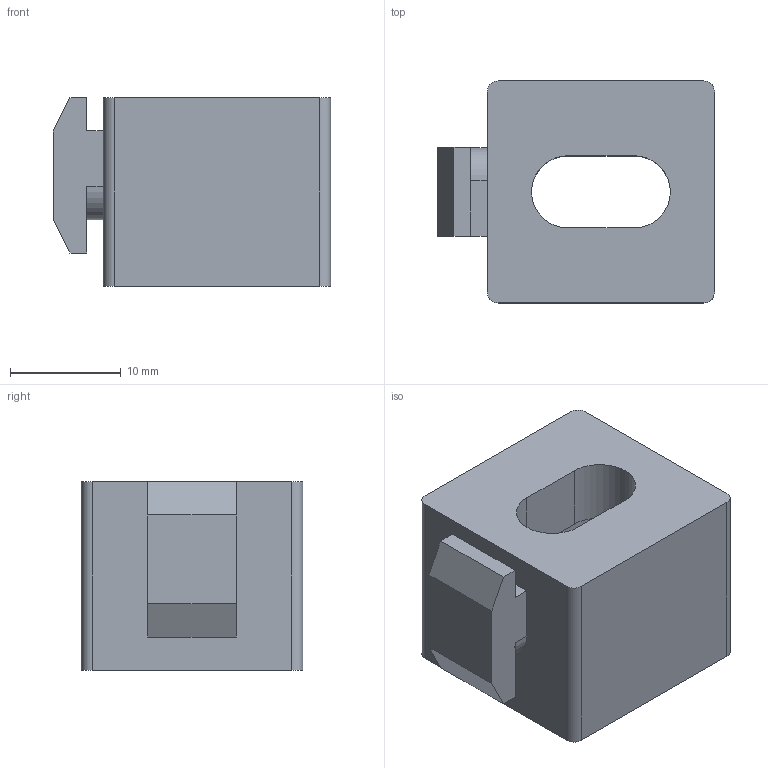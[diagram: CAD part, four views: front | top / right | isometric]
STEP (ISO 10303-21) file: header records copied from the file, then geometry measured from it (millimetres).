
FILE_DESCRIPTION (( 'STEP AP203' ), '1' );
FILE_NAME ('89-CE-PM-30E.STEP', '2015-07-09T08:32:48', ( '' ), ( '' ), 'SwSTEP 2.0', 'SolidWorks 2013', '' );
FILE_SCHEMA (( 'CONFIG_CONTROL_DESIGN' ));
Length unit declared in the file: millimetre
Products named in the file (1): 89-CE-PM-30E
Bounding box: 25 x 20 x 17 mm (x, y, z)
Volume: 5609.9 mm3; surface area: 3029.3 mm2
Topology: 1 solids, 1 shells, 38 faces, 102 edges, 68 vertices
Faces by surface type: plane 26, cylinder 12
Entity records: 1275 total; most frequent: CARTESIAN_POINT 209, DIRECTION 204, ORIENTED_EDGE 204, EDGE_CURVE 102, LINE 78, VECTOR 78, VERTEX_POINT 68, AXIS2_PLACEMENT_3D 63
